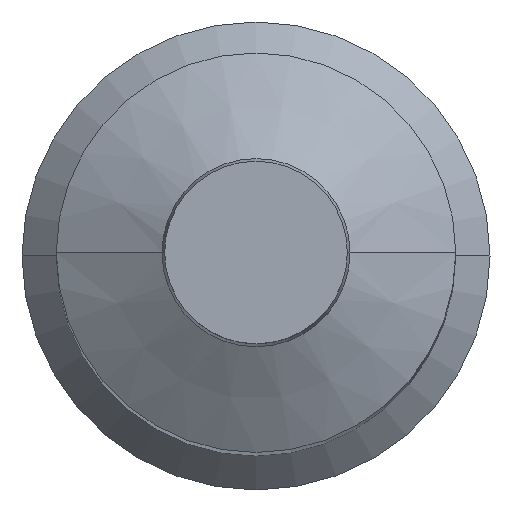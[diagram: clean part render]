
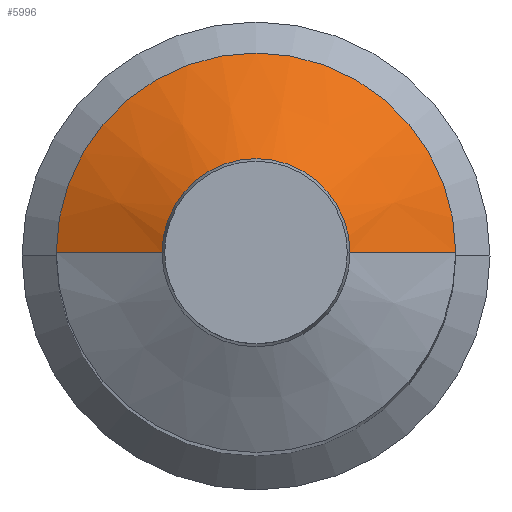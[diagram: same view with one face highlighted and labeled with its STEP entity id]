
A CAD part, top view. The second image highlights one B-rep face of the part: STEP entity #5996.
In plain terms, the highlighted conical face has half-angle 60 degrees and reference radius 35 mm.
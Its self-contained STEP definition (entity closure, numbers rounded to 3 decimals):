
#1136 = CARTESIAN_POINT ( 'NONE',  ( 0., 0., 374.009 ) ) ;
#1137 = DIRECTION ( 'NONE',  ( 0., 0., -1. ) ) ;
#1138 = DIRECTION ( 'NONE',  ( 1., 0., 0. ) ) ;
#1687 = ORIENTED_EDGE ( 'NONE', *, *, #17239, .F. ) ;
#1688 = ORIENTED_EDGE ( 'NONE', *, *, #17252, .T. ) ;
#1689 = ORIENTED_EDGE ( 'NONE', *, *, #17155, .T. ) ;
#1690 = ORIENTED_EDGE ( 'NONE', *, *, #17254, .F. ) ;
#1994 = CARTESIAN_POINT ( 'NONE',  ( 0., 0., 374.009 ) ) ;
#1995 = DIRECTION ( 'NONE',  ( 0., 0., -1. ) ) ;
#1996 = DIRECTION ( 'NONE',  ( 1., 0., 0. ) ) ;
#2015 = CARTESIAN_POINT ( 'NONE',  ( 35., 0., 374.009 ) ) ;
#2016 = DIRECTION ( 'NONE',  ( 0.866, 0., -0.5 ) ) ;
#2017 = CARTESIAN_POINT ( 'NONE',  ( -35., 0., 374.009 ) ) ;
#2018 = DIRECTION ( 'NONE',  ( -0.866, 0., -0.5 ) ) ;
#5996 = ADVANCED_FACE ( 'NONE', ( #16714 ), #16591, .T. ) ;
#6564 = VERTEX_POINT ( 'NONE', #12346 ) ;
#6565 = VERTEX_POINT ( 'NONE', #12347 ) ;
#6566 = VERTEX_POINT ( 'NONE', #12348 ) ;
#6567 = VERTEX_POINT ( 'NONE', #12349 ) ;
#12346 = CARTESIAN_POINT ( 'NONE',  ( 35., 0., 374.009 ) ) ;
#12347 = CARTESIAN_POINT ( 'NONE',  ( -35., 0., 374.009 ) ) ;
#12348 = CARTESIAN_POINT ( 'NONE',  ( -16.482, 0., 384.7 ) ) ;
#12349 = CARTESIAN_POINT ( 'NONE',  ( 16.482, 0., 384.7 ) ) ;
#12616 = CARTESIAN_POINT ( 'NONE',  ( 0., 0., 384.7 ) ) ;
#13820 = CIRCLE ( 'NONE', #15081, 16.482 ) ;
#13874 = CIRCLE ( 'NONE', #15141, 35. ) ;
#13888 = LINE ( 'NONE', #2015, #13889 ) ;
#13889 = VECTOR ( 'NONE', #2016, 1000. ) ;
#13890 = LINE ( 'NONE', #2017, #13891 ) ;
#13891 = VECTOR ( 'NONE', #2018, 1000. ) ;
#14059 = DIRECTION ( 'NONE',  ( 0., 0., -1. ) ) ;
#14060 = DIRECTION ( 'NONE',  ( 1., 0., 0. ) ) ;
#15081 = AXIS2_PLACEMENT_3D ( 'NONE', #12616, #14059, #14060 ) ;
#15141 = AXIS2_PLACEMENT_3D ( 'NONE', #1994, #1995, #1996 ) ;
#16591 = CONICAL_SURFACE ( 'NONE', #18130, 35., 1.047 ) ;
#16714 = FACE_OUTER_BOUND ( 'NONE', #18581, .T. ) ;
#17155 = EDGE_CURVE ( 'NONE', #6566, #6567, #13820, .T. ) ;
#17239 = EDGE_CURVE ( 'NONE', #6565, #6564, #13874, .T. ) ;
#17252 = EDGE_CURVE ( 'NONE', #6567, #6564, #13888, .T. ) ;
#17254 = EDGE_CURVE ( 'NONE', #6566, #6565, #13890, .T. ) ;
#18130 = AXIS2_PLACEMENT_3D ( 'NONE', #1136, #1137, #1138 ) ;
#18581 = EDGE_LOOP ( 'NONE', ( #1690, #1689, #1688, #1687 ) ) ;
